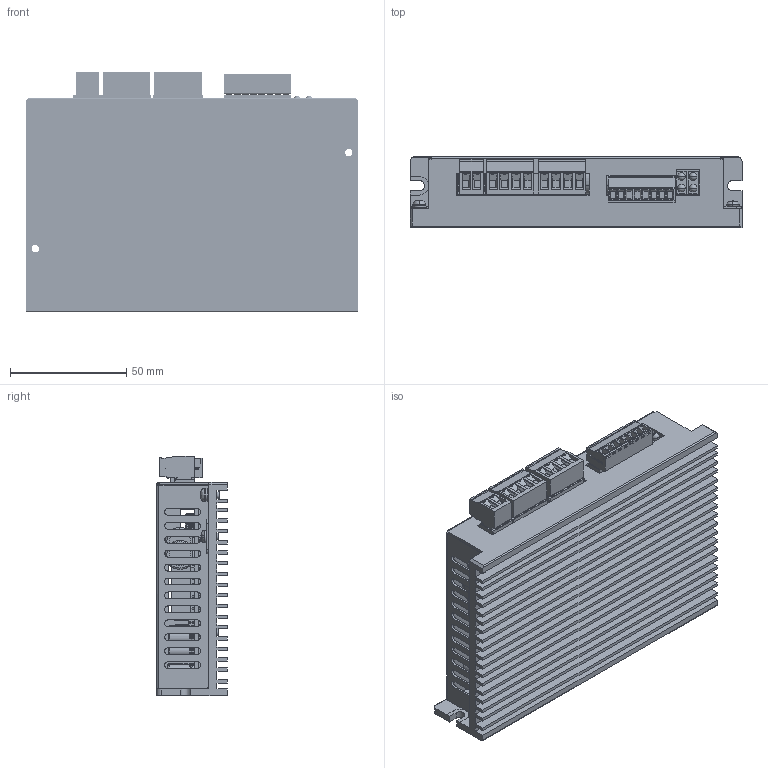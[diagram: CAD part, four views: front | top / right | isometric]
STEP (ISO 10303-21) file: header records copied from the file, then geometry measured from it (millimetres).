
FILE_DESCRIPTION((''),'2;1');
FILE_NAME('YKE2405M-2A_ASM','2022-09-19T14:07:13',('Admin'),(''),'CREO PARAMETRIC BY PTC INC, 2020074','CREO PARAMETRIC BY PTC INC, 2020074','');
FILE_SCHEMA(('CONFIG_CONTROL_DESIGN'));
Products named in the file (8): USB-MINI-B; LHY3302-3-2PIN; 2EDGRC-5_08-02P-14-100AH; 2EDGR-5_08-04P-14-100A_H_; 15EDGRC-3_5-08P-14-00A_H_; YKE2405M-2A-PCB_ASM; YKE2405M-2A_SW0001; YKE2405M-2A_ASM
Assembly tree (10 placements, depth 3):
  YKE2405M-2A_ASM
    YKE2405M-2A-PCB_ASM
      USB-MINI-B  x2
      LHY3302-3-2PIN  x2
      2EDGRC-5_08-02P-14-100AH
      2EDGR-5_08-04P-14-100A_H_  x2
      15EDGRC-3_5-08P-14-00A_H_
    YKE2405M-2A_SW0001
Bounding box: 143 x 30.5 x 103.24 mm (x, y, z)
Volume: 138656.8 mm3; surface area: 140432.9 mm2
Topology: 20 solids, 20 shells, 8677 faces, 24192 edges, 15919 vertices
Faces by surface type: plane 6470, cylinder 1252, extrusion 517, torus 190, cone 120, sphere 82, bspline 46
Entity records: 275823 total; most frequent: CARTESIAN_POINT 77340, ORIENTED_EDGE 42958, DIRECTION 37828, EDGE_CURVE 21479, VECTOR 17228, LINE 16711, VERTEX_POINT 14190, AXIS2_PLACEMENT_3D 10300
